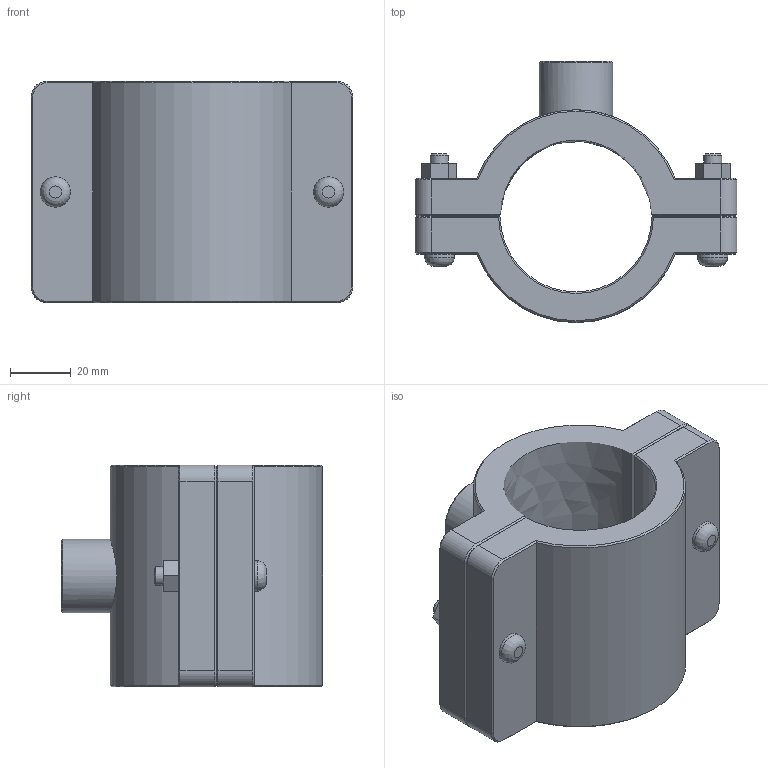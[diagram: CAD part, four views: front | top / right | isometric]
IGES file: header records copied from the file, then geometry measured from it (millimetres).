
Global section: file name: 160760050005_160860050005.ipt; native system: Autodesk Inventor 2015; preprocessor: unknown; author: KIM; date: 20170618.093452; units: millimetre
Bounding box: 106 x 86 x 73 mm (x, y, z)
Volume: 207436.6 mm3; surface area: 48954.9 mm2
Topology: 1 solids, 1 shells, 113 faces, 262 edges, 161 vertices
Faces by surface type: plane 64, cone 23, cylinder 17, revolution 9
Full cylindrical faces by diameter (mm): 6 x2, 10 x4, 24.22 x1
